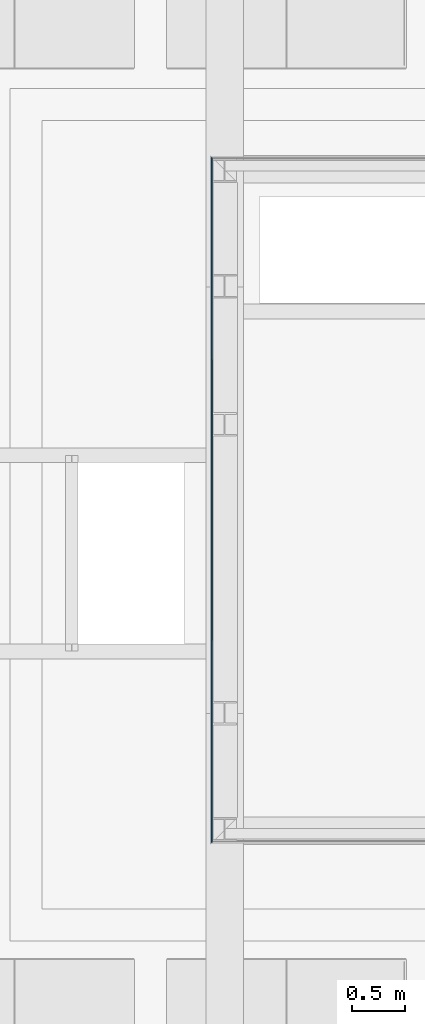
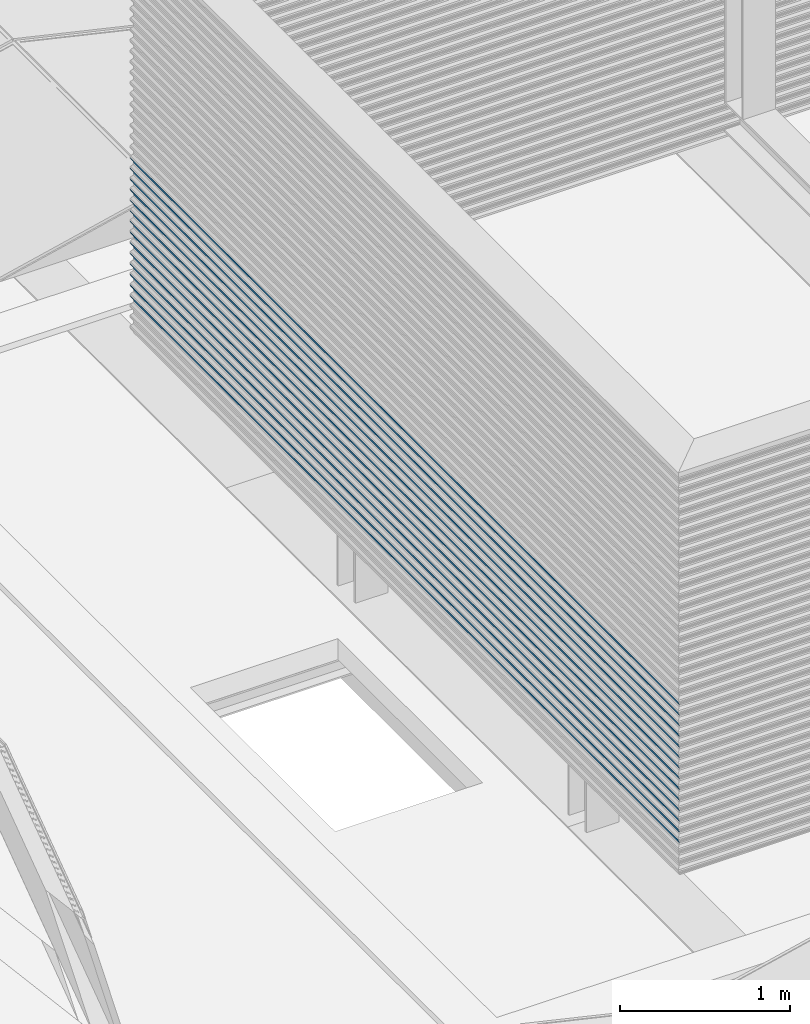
# One storey, part 23 of 63: 14 building element parts, 1 element without a shape of its own.
"""IFC2X3 building model written with IfcOpenShell, lengths in millimetres."""

from ifc_helpers import new_model, entity, si_unit, converted_unit, derived_unit, money_unit, direction, frame, origin_with_axes, place, context, subcontext, project, spatial, faceted_brep, material, type_object, element, aggregate, save


model = new_model("IFC2X3")

# Units and contexts
model_context = context("Model", 3, precision=0.01, world=origin_with_axes(), true_north=direction((0.0, 1.0)))
body_context = subcontext(model_context, "Body", "Model", "MODEL_VIEW")
ifc_project = project(units=[si_unit("LENGTHUNIT", "METRE", prefix="MILLI"), si_unit("AREAUNIT", "SQUARE_METRE"), si_unit("VOLUMEUNIT", "CUBIC_METRE"), converted_unit("PLANEANGLEUNIT", "DEGREE", entity("IfcPlaneAngleMeasure", 0.0174532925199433), si_unit("PLANEANGLEUNIT", "RADIAN"), dimensions=[0, 0, 0, 0, 0, 0, 0]), money_unit("EUR"), converted_unit("TIMEUNIT", "Year", entity("IfcTimeMeasure", 31557600.0), si_unit("TIMEUNIT", "SECOND"), dimensions=[0, 0, 1, 0, 0, 0, 0]), si_unit("MASSUNIT", "GRAM", prefix="KILO"), si_unit("THERMODYNAMICTEMPERATUREUNIT", "DEGREE_CELSIUS"), si_unit("LUMINOUSINTENSITYUNIT", "LUMEN"), si_unit("ENERGYUNIT", "JOULE", prefix="MEGA"), derived_unit("THERMALCONDUCTANCEUNIT", [(si_unit("POWERUNIT", "WATT"), 1), (si_unit("LENGTHUNIT", "METRE"), -1), (si_unit("THERMODYNAMICTEMPERATUREUNIT", "KELVIN"), -1)]), derived_unit("SPECIFICHEATCAPACITYUNIT", [(si_unit("ENERGYUNIT", "JOULE"), 1), (si_unit("MASSUNIT", "GRAM", prefix="KILO"), -1), (si_unit("THERMODYNAMICTEMPERATUREUNIT", "KELVIN"), -1)]), derived_unit("MASSDENSITYUNIT", [(si_unit("MASSUNIT", "GRAM", prefix="KILO"), 1), (si_unit("VOLUMEUNIT", "CUBIC_METRE"), -1)])], contexts=[model_context])

# Site, building, storey
site_placement = place(None, origin_with_axes())
site = spatial("IfcSite", under=ifc_project, at=site_placement, Name="<site naam>", CompositionType="ELEMENT")
building_placement = place(site_placement, origin_with_axes())
building = spatial("IfcBuilding", under=site, at=building_placement, Name="<Naam gebouw>", CompositionType="ELEMENT")
storey_placement = place(building_placement, frame((0.0, 0.0, 12770.0), z_axis=(0.0, 0.0, 1.0), x_axis=(1.0, 0.0, 0.0)))
storey = spatial("IfcBuildingStorey", under=building, at=storey_placement, Name="04 4e verdieping", CompositionType="ELEMENT", Elevation=12770.0)

# Wall, building element parts
wall_type = type_object("IfcWallType", Name="Gevelbeplating golf 18 x 2900", PredefinedType="NOTDEFINED")
wall_placement = place(storey_placement, frame((15871.99992141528, 13218.00009009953, 299.9552842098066), z_axis=(0.0, 0.0, 1.0), x_axis=(0.0, -1.0, 0.0)))
wall = element("IfcWall", 1, at=wall_placement, inside=storey, type_object=wall_type, Name="47_Binnenwand_Gevelbeplating")
ifc_material = material(Name="gevelafwerking type 3 - Aluminium RAL1036")
building_element_part_1_placement = place(wall_placement, origin_with_axes())
building_element_part_1 = element("IfcBuildingElementPart", 2, at=building_element_part_1_placement, material=ifc_material, Name="gevelafwerking type 3 - Aluminium RAL1036", context=body_context, shape_type="Brep", body=[
    faceted_brep([(17.99999285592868, 16.99999047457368, 227.9999999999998), (17.99999285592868, 17.99999285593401, 227.9999999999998), (6418.000175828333, 17.99999285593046, 227.9999999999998), (6418.000175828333, 16.99999047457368, 227.9999999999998), (15.62925573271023, 15.62925573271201, 238.6844886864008), (15.69999469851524, 14.77518995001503, 238.3656808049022), (15.62925573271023, 14.54422243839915, 238.6844886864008), (6420.370912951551, 15.62925573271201, 238.6844886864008), (6420.370912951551, 14.54422243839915, 238.6844886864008), (6420.300173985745, 14.77518995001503, 238.3656808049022), (6426.602046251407, 8.555245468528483, 246.9511047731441), (9.398122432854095, 8.555245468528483, 246.9511047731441), (9.041576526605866, 9.041576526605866, 247.4241211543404), (9.041576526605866, 8.209534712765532, 247.4241211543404), (6426.958592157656, 9.041576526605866, 247.4241211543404), (6426.958592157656, 8.209534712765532, 247.4241211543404), (6432.660044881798, 2.257351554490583, 255.5682041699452), (3.340123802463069, 2.257351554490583, 255.5682041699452), (3.116471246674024, 3.116471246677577, 255.8876744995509), (3.116471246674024, 2.188223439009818, 255.8876744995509), (6432.883697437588, 3.116471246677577, 255.8876744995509), (6432.883697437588, 2.188223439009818, 255.8876744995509), (6435.000175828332, -7.144066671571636e-06, 266.0), (0.9999928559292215, -7.144066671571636e-06, 266.0), (0.9999928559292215, 0.9999928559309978, 266.0), (6435.000175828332, 0.9999928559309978, 266.0)], [[[0, 1, 2, 3]], [[4, 1, 0, 5, 6]], [[1, 4, 7, 2]], [[3, 2, 7, 8, 9]], [[5, 0, 3, 9]], [[6, 5, 9, 8, 10, 11]], [[12, 4, 6, 11, 13]], [[4, 12, 14, 7]], [[7, 14, 15, 10, 8]], [[13, 11, 10, 15, 16, 17]], [[18, 12, 13, 17, 19]], [[12, 18, 20, 14]], [[14, 20, 21, 16, 15]], [[19, 17, 16, 21, 22, 23]], [[24, 18, 19, 23]], [[18, 24, 25, 20]], [[20, 25, 22, 21]], [[24, 23, 22, 25]]]),
])
building_element_part_2_placement = place(wall_placement, origin_with_axes())
building_element_part_2 = element("IfcBuildingElementPart", 3, at=building_element_part_2_placement, material=ifc_material, Name="gevelafwerking type 3 - Aluminium RAL1036", context=body_context, shape_type="Brep", body=[
    faceted_brep([(17.99999047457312, 16.99998809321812, 380.0000000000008), (17.99999047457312, 17.99999047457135, 380.0000000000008), (6418.000178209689, 17.99999047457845, 380.0000000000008), (6418.000178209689, 16.99998809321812, 380.0000000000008), (15.62925335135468, 15.62925335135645, 390.6844886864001), (15.69999000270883, 14.77518756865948, 390.3656912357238), (15.62925335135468, 14.54422761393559, 390.6844886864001), (6420.370915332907, 15.62925335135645, 390.6844886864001), (6420.370915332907, 14.54422761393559, 390.6844886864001), (6420.300178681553, 14.77518756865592, 390.3656912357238), (6426.602056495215, 8.555243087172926, 398.9511152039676), (9.398112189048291, 8.555243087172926, 398.9511152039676), (9.041574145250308, 9.041574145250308, 399.4241211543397), (9.041574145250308, 8.209539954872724, 399.4241211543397), (6426.958594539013, 9.041574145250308, 399.4241211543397), (6426.958594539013, 8.209539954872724, 399.4241211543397), (6432.660054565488, 2.257349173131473, 407.5682146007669), (3.340114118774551, 2.257349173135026, 407.5682146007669), (3.116468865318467, 3.11646886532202, 407.8876744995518), (3.116468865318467, 2.188223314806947, 407.8876744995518), (6432.883699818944, 3.11646886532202, 407.8876744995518), (6432.883699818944, 2.188223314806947, 407.8876744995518), (6435.00017820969, -9.52542578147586e-06, 417.9999999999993), (0.9999904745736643, -9.525422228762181e-06, 417.9999999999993), (0.9999904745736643, 0.9999904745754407, 417.9999999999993), (6435.00017820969, 0.9999904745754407, 417.9999999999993)], [[[0, 1, 2, 3]], [[4, 1, 0, 5, 6]], [[1, 4, 7, 2]], [[3, 2, 7, 8, 9]], [[5, 0, 3, 9]], [[6, 5, 9, 8, 10, 11]], [[12, 4, 6, 11, 13]], [[4, 12, 14, 7]], [[7, 14, 15, 10, 8]], [[13, 11, 10, 15, 16, 17]], [[18, 12, 13, 17, 19]], [[12, 18, 20, 14]], [[14, 20, 21, 16, 15]], [[19, 17, 16, 21, 22, 23]], [[24, 18, 19, 23]], [[18, 24, 25, 20]], [[20, 25, 22, 21]], [[24, 23, 22, 25]]]),
])
building_element_part_3_placement = place(wall_placement, origin_with_axes())
building_element_part_3 = element("IfcBuildingElementPart", 4, at=building_element_part_3_placement, material=ifc_material, Name="gevelafwerking type 3 - Aluminium RAL1036", context=body_context, shape_type="Brep", body=[
    faceted_brep([(17.99999047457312, 16.99998809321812, 304.0000000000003), (17.99999047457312, 17.99999047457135, 304.0000000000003), (6418.000178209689, 17.99999047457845, 304.0000000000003), (6418.000178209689, 16.99998809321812, 304.0000000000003), (15.62925335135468, 15.62925335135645, 314.6844886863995), (15.69999595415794, 14.77518756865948, 314.365664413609), (15.62925335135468, 14.54420818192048, 314.6844886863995), (6420.370915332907, 15.62925335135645, 314.6844886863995), (6420.300172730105, 14.77518756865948, 314.365664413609), (6420.370915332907, 14.54420818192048, 314.6844886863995), (6426.602036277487, 8.555243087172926, 322.9510883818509), (9.398132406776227, 8.555243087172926, 322.9510883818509), (9.041574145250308, 9.041574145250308, 323.4241211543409), (9.041574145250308, 8.209551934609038, 323.4241211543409), (6426.958594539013, 9.041574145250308, 323.4241211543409), (6426.958594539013, 8.209551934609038, 323.4241211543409), (6432.660066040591, 2.257349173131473, 331.56823099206), (3.34010264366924, 2.257349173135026, 331.56823099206), (3.116468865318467, 3.11646886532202, 331.8876744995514), (3.116468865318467, 2.188217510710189, 331.8876744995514), (6432.883699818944, 3.11646886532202, 331.8876744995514), (6432.883699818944, 2.188217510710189, 331.8876744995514), (6435.00017820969, -9.52542578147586e-06, 342.0000000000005), (0.9999904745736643, -9.525422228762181e-06, 342.0000000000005), (0.9999904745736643, 0.9999904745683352, 342.0000000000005), (6435.00017820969, 0.9999904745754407, 342.0000000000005)], [[[0, 1, 2, 3]], [[4, 1, 0, 5, 6]], [[1, 4, 7, 2]], [[8, 3, 2, 7, 9]], [[5, 0, 3, 8]], [[6, 5, 8, 9, 10, 11]], [[12, 4, 6, 11, 13]], [[4, 12, 14, 7]], [[9, 7, 14, 15, 10]], [[13, 11, 10, 15, 16, 17]], [[18, 12, 13, 17, 19]], [[12, 18, 20, 14]], [[15, 14, 20, 21, 16]], [[19, 17, 16, 21, 22, 23]], [[24, 18, 19, 23]], [[18, 24, 25, 20]], [[21, 20, 25, 22]], [[24, 23, 22, 25]]]),
])
building_element_part_4_placement = place(wall_placement, origin_with_axes())
building_element_part_4 = element("IfcBuildingElementPart", 5, at=building_element_part_4_placement, material=ifc_material, Name="gevelafwerking type 3 - Aluminium RAL1036", context=body_context, shape_type="Brep", body=[
    faceted_brep([(17.99998571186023, 16.99998333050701, 532.0), (17.99998571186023, 17.99998571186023, 532.0), (6418.000182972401, 17.99998571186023, 532.0), (6418.000182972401, 16.99998333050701, 532.0), (15.62924858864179, 15.62924858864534, 542.6844886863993), (15.69998292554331, 14.77518280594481, 542.3657016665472), (15.62924858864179, 14.54423040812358, 542.6844886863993), (6420.370920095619, 15.62924858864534, 542.6844886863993), (6420.370920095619, 14.54423040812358, 542.6844886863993), (6420.300185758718, 14.77518280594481, 542.3657016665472), (6426.602069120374, 8.555238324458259, 550.9511256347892), (9.39809956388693, 8.555238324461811, 550.9511256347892), (9.041569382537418, 9.041569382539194, 551.4241211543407), (9.041569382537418, 8.209542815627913, 551.4241211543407), (6426.958599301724, 9.041569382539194, 551.4241211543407), (6426.958599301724, 8.209542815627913, 551.4241211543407), (6432.660066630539, 2.257344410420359, 559.5682250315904), (3.340102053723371, 2.257344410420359, 559.5682250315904), (3.116464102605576, 3.116464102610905, 559.8876744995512), (3.116464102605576, 2.188211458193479, 559.8876744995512), (6432.883704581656, 3.116464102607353, 559.8876744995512), (6432.883704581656, 2.188211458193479, 559.8876744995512), (6435.000182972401, -1.428813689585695e-05, 570.0000000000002), (0.9999857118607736, -1.428813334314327e-05, 570.0000000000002), (0.9999857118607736, 0.9999857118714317, 570.0000000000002), (6435.000182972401, 0.9999857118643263, 570.0000000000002)], [[[0, 1, 2, 3]], [[4, 1, 0, 5, 6]], [[1, 4, 7, 2]], [[3, 2, 7, 8, 9]], [[5, 0, 3, 9]], [[6, 5, 9, 8, 10, 11]], [[12, 4, 6, 11, 13]], [[4, 12, 14, 7]], [[7, 14, 15, 10, 8]], [[13, 11, 10, 15, 16, 17]], [[18, 12, 13, 17, 19]], [[12, 18, 20, 14]], [[14, 20, 21, 16, 15]], [[19, 17, 16, 21, 22, 23]], [[24, 18, 19, 23]], [[18, 24, 25, 20]], [[20, 25, 22, 21]], [[24, 23, 22, 25]]]),
])
building_element_part_5_placement = place(wall_placement, origin_with_axes())
building_element_part_5 = element("IfcBuildingElementPart", 6, at=building_element_part_5_placement, material=ifc_material, Name="gevelafwerking type 3 - Aluminium RAL1036", context=body_context, shape_type="Brep", body=[
    faceted_brep([(17.99998809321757, 16.99998571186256, 455.9999999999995), (17.99998809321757, 17.99998809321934, 455.9999999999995), (6418.000180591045, 17.99998809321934, 455.9999999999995), (6418.000180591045, 16.99998571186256, 455.9999999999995), (15.62925096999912, 15.6292509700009, 466.6844886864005), (15.69999125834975, 14.77518518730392, 466.3656748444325), (15.62925096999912, 14.54421335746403, 466.6844886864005), (6420.370917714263, 15.6292509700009, 466.6844886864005), (6420.370917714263, 14.54421335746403, 466.6844886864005), (6420.300177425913, 14.77518518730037, 466.3656748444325), (6426.602046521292, 8.555240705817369, 474.9510988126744), (9.398122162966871, 8.555240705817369, 474.9510988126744), (9.041571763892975, 9.041571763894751, 475.4241211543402), (9.041571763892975, 8.209525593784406, 475.4241211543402), (6426.958596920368, 9.041571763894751, 475.4241211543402), (6426.958596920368, 8.209525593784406, 475.4241211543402), (6432.660045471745, 2.257346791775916, 483.5681982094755), (3.340123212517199, 2.257346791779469, 483.5681982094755), (3.11646648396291, 3.116466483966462, 483.8876744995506), (3.11646648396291, 2.188217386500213, 483.8876744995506), (6432.8837022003, 3.116466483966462, 483.8876744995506), (6432.8837022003, 2.188217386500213, 483.8876744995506), (6435.000180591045, -1.190678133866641e-05, 493.9999999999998), (0.9999880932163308, -1.190678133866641e-05, 493.9999999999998), (0.9999880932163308, 0.9999880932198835, 493.9999999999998), (6435.000180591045, 0.9999880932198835, 493.9999999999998)], [[[0, 1, 2, 3]], [[4, 1, 0, 5, 6]], [[1, 4, 7, 2]], [[3, 2, 7, 8, 9]], [[5, 0, 3, 9]], [[6, 5, 9, 8, 10, 11]], [[12, 4, 6, 11, 13]], [[4, 12, 14, 7]], [[7, 14, 15, 10, 8]], [[13, 11, 10, 15, 16, 17]], [[18, 12, 13, 17, 19]], [[12, 18, 20, 14]], [[14, 20, 21, 16, 15]], [[19, 17, 16, 21, 22, 23]], [[24, 18, 19, 23]], [[18, 24, 25, 20]], [[20, 25, 22, 21]], [[24, 23, 22, 25]]]),
])
building_element_part_6_placement = place(wall_placement, origin_with_axes())
building_element_part_6 = element("IfcBuildingElementPart", 7, at=building_element_part_6_placement, material=ifc_material, Name="gevelafwerking type 3 - Aluminium RAL1036", context=body_context, shape_type="Brep", body=[
    faceted_brep([(17.99998333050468, 16.99998094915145, 608.0000000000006), (17.99998333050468, 17.99998333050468, 608.0000000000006), (6418.000185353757, 17.99998333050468, 608.0000000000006), (6418.000185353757, 16.99998094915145, 608.0000000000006), (15.62924620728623, 15.62924620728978, 618.6844886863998), (15.69998418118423, 14.77518042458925, 618.3656852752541), (15.62924620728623, 14.54421615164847, 618.6844886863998), (6420.370922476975, 15.62924620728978, 618.6844886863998), (6420.300184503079, 14.77518042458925, 618.3656852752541), (6420.370922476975, 14.54421615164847, 618.6844886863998), (6426.602059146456, 8.555235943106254, 626.9511092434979), (9.398109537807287, 8.555235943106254, 626.9511092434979), (9.04156700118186, 9.041567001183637, 627.4241211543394), (9.04156700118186, 8.209528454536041, 627.4241211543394), (6426.958601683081, 9.041567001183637, 627.4241211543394), (6426.958601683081, 8.209528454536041, 627.4241211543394), (6432.660057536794, 2.257342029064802, 635.5682086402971), (3.340111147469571, 2.257342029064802, 635.5682086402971), (3.116461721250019, 3.116461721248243, 635.8876744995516), (3.116461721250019, 2.188214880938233, 635.8876744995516), (6432.883706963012, 3.116461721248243, 635.8876744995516), (6432.883706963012, 2.188214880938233, 635.8876744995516), (6435.000185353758, -1.666949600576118e-05, 645.999999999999), (0.9999833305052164, -1.66694924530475e-05, 645.999999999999), (0.9999833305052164, 0.9999833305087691, 645.999999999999), (6435.000185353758, 0.9999833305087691, 645.999999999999)], [[[0, 1, 2, 3]], [[4, 1, 0, 5, 6]], [[1, 4, 7, 2]], [[8, 3, 2, 7, 9]], [[5, 0, 3, 8]], [[6, 5, 8, 9, 10, 11]], [[12, 4, 6, 11, 13]], [[4, 12, 14, 7]], [[9, 7, 14, 15, 10]], [[13, 11, 10, 15, 16, 17]], [[18, 12, 13, 17, 19]], [[12, 18, 20, 14]], [[15, 14, 20, 21, 16]], [[19, 17, 16, 21, 22, 23]], [[24, 18, 19, 23]], [[18, 24, 25, 20]], [[21, 20, 25, 22]], [[24, 23, 22, 25]]]),
])
building_element_part_7_placement = place(wall_placement, origin_with_axes())
building_element_part_7 = element("IfcBuildingElementPart", 8, at=building_element_part_7_placement, material=ifc_material, Name="gevelafwerking type 3 - Aluminium RAL1036", context=body_context, shape_type="Brep", body=[
    faceted_brep([(17.99998094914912, 16.99997856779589, 683.9999999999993), (17.99998094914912, 17.99998094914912, 683.9999999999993), (6418.000187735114, 17.99998094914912, 683.9999999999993), (6418.000187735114, 16.99997856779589, 683.9999999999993), (15.62924382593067, 15.62924382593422, 694.6844886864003), (15.69998543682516, 14.77517804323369, 694.365668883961), (15.62924382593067, 14.54420189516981, 694.6844886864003), (6420.370924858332, 15.62924382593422, 694.6844886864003), (6420.300183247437, 14.77517804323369, 694.365668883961), (6420.370924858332, 14.54420189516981, 694.6844886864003), (6426.602049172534, 8.555233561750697, 702.9510928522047), (9.398119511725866, 8.555233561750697, 702.9510928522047), (9.041564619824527, 9.04156461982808, 703.4241211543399), (9.041564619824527, 8.209514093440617, 703.4241211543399), (6426.958604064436, 9.04156461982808, 703.4241211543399), (6426.958604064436, 8.209514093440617, 703.4241211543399), (6432.660048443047, 2.257339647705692, 711.568192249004), (3.340120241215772, 2.257339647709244, 711.568192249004), (3.116459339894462, 3.116459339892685, 711.8876744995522), (3.116459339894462, 2.188208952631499, 711.8876744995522), (6432.883709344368, 3.116459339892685, 711.8876744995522), (6432.883709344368, 2.188208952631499, 711.8876744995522), (6435.000187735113, -1.905085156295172e-05, 721.9999999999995), (0.9999809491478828, -1.905084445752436e-05, 721.9999999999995), (0.9999809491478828, 0.9999809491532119, 721.9999999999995), (6435.000187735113, 0.9999809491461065, 721.9999999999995)], [[[0, 1, 2, 3]], [[4, 1, 0, 5, 6]], [[1, 4, 7, 2]], [[8, 3, 2, 7, 9]], [[5, 0, 3, 8]], [[6, 5, 8, 9, 10, 11]], [[12, 4, 6, 11, 13]], [[4, 12, 14, 7]], [[9, 7, 14, 15, 10]], [[13, 11, 10, 15, 16, 17]], [[18, 12, 13, 17, 19]], [[12, 18, 20, 14]], [[15, 14, 20, 21, 16]], [[19, 17, 16, 21, 22, 23]], [[24, 18, 19, 23]], [[18, 24, 25, 20]], [[21, 20, 25, 22]], [[24, 23, 22, 25]]]),
])
building_element_part_8_placement = place(wall_placement, origin_with_axes())
building_element_part_8 = element("IfcBuildingElementPart", 9, at=building_element_part_8_placement, material=ifc_material, Name="gevelafwerking type 3 - Aluminium RAL1036", context=body_context, shape_type="Brep", body=[
    faceted_brep([(17.99997856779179, 16.99997618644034, 759.9999999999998), (17.99997856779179, 17.99997856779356, 759.9999999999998), (6418.00019011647, 17.99997856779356, 759.9999999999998), (6418.00019011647, 16.99997618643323, 759.9999999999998), (15.62924144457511, 15.62924144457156, 770.6844886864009), (15.69997710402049, 14.77517566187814, 770.3656957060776), (15.62924144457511, 14.54421894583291, 770.6844886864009), (6420.370927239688, 15.62924144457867, 770.6844886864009), (6420.370927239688, 14.54421894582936, 770.6844886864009), (6420.300191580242, 14.77517566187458, 770.3656957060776), (6426.602071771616, 8.555231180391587, 778.9511196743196), (9.398096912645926, 8.555231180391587, 778.9511196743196), (9.04156223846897, 9.041562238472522, 779.4241211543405), (9.04156223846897, 8.209531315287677, 779.4241211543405), (6426.958606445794, 9.041562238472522, 779.4241211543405), (6426.958606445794, 8.209531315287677, 779.4241211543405), (6432.660069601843, 2.257337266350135, 787.5682190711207), (3.340099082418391, 2.257337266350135, 787.5682190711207), (3.116456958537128, 3.116456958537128, 787.8876744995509), (3.116456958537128, 2.188203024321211, 787.8876744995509), (6432.883711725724, 3.116456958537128, 787.8876744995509), (6432.883711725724, 2.188203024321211, 787.8876744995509), (6435.00019011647, -2.143220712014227e-05, 798.0), (0.9999785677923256, -2.143220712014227e-05, 798.0), (0.9999785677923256, 0.9999785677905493, 798.0), (6435.00019011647, 0.9999785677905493, 798.0)], [[[0, 1, 2, 3]], [[4, 1, 0, 5, 6]], [[1, 4, 7, 2]], [[3, 2, 7, 8, 9]], [[5, 0, 3, 9]], [[6, 5, 9, 8, 10, 11]], [[12, 4, 6, 11, 13]], [[4, 12, 14, 7]], [[7, 14, 15, 10, 8]], [[13, 11, 10, 15, 16, 17]], [[18, 12, 13, 17, 19]], [[12, 18, 20, 14]], [[14, 20, 21, 16, 15]], [[19, 17, 16, 21, 22, 23]], [[24, 18, 19, 23]], [[18, 24, 25, 20]], [[20, 25, 22, 21]], [[24, 23, 22, 25]]]),
])
building_element_part_9_placement = place(wall_placement, origin_with_axes())
building_element_part_9 = element("IfcBuildingElementPart", 10, at=building_element_part_9_placement, material=ifc_material, Name="gevelafwerking type 3 - Aluminium RAL1036", context=body_context, shape_type="Brep", body=[
    faceted_brep([(17.99997618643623, 16.99997380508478, 836.0000000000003), (17.99997618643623, 17.999976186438, 836.0000000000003), (6418.000192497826, 17.999976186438, 836.0000000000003), (6418.000192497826, 16.99997380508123, 836.0000000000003), (15.62923906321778, 15.62923906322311, 846.6844886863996), (15.69997835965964, 14.77517328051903, 846.3656793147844), (15.62923906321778, 14.54420468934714, 846.6844886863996), (6420.370929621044, 15.62923906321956, 846.6844886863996), (6420.300190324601, 14.77517328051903, 846.3656793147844), (6420.370929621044, 14.54420468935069, 846.6844886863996), (6426.602061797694, 8.55522879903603, 854.9511032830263), (9.398106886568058, 8.55522879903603, 854.9511032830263), (9.041559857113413, 9.041559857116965, 855.4241211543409), (9.041559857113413, 8.209516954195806, 855.4241211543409), (6426.958608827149, 9.041559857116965, 855.4241211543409), (6426.958608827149, 8.209516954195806, 855.4241211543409), (6432.660060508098, 2.257334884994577, 863.5682026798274), (3.340108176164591, 2.257334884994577, 863.5682026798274), (3.116454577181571, 3.116454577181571, 863.8876744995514), (3.116454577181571, 2.188206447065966, 863.8876744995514), (6432.883714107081, 3.116454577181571, 863.8876744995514), (6432.883714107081, 2.188206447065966, 863.8876744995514), (6435.000192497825, -2.381356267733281e-05, 874.0000000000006), (0.9999761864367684, -2.381356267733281e-05, 874.0000000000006), (0.9999761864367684, 0.9999761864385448, 874.0000000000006), (6435.000192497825, 0.9999761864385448, 874.0000000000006)], [[[0, 1, 2, 3]], [[4, 1, 0, 5, 6]], [[1, 4, 7, 2]], [[8, 3, 2, 7, 9]], [[5, 0, 3, 8]], [[6, 5, 8, 9, 10, 11]], [[12, 4, 6, 11, 13]], [[4, 12, 14, 7]], [[9, 7, 14, 15, 10]], [[13, 11, 10, 15, 16, 17]], [[18, 12, 13, 17, 19]], [[12, 18, 20, 14]], [[15, 14, 20, 21, 16]], [[19, 17, 16, 21, 22, 23]], [[24, 18, 19, 23]], [[18, 24, 25, 20]], [[21, 20, 25, 22]], [[24, 23, 22, 25]]]),
])
building_element_part_10_placement = place(wall_placement, origin_with_axes())
building_element_part_10 = element("IfcBuildingElementPart", 11, at=building_element_part_10_placement, material=ifc_material, Name="gevelafwerking type 3 - Aluminium RAL1036", context=body_context, shape_type="Brep", body=[
    faceted_brep([(17.99997380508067, 16.99997142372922, 911.9999999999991), (17.99997380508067, 17.99997380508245, 911.9999999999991), (6418.000194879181, 17.99997380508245, 911.9999999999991), (6418.000194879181, 16.99997142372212, 911.9999999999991), (15.62923668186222, 15.629236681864, 922.6844886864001), (15.69997002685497, 14.77517089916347, 922.3657061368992), (15.62923668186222, 14.54419043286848, 922.6844886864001), (6420.3709320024, 15.62923668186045, 922.6844886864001), (6420.3709320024, 14.54419043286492, 922.6844886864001), (6420.300198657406, 14.77517089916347, 922.3657061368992), (6426.602051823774, 8.55522641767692, 930.9510868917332), (9.398116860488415, 8.55522641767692, 930.9510868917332), (9.041557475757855, 9.041557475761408, 931.4241211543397), (9.041557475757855, 8.20953417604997, 931.4241211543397), (6426.958611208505, 9.041557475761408, 931.4241211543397), (6426.958611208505, 8.20953417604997, 931.4241211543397), (6432.660081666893, 2.25733250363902, 939.5682295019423), (3.340087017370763, 2.25733250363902, 939.5682295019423), (3.116452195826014, 3.116452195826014, 939.8876744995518), (3.116452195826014, 2.188200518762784, 939.8876744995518), (6432.883716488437, 3.116452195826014, 939.8876744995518), (6432.883716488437, 2.188200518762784, 939.8876744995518), (6435.000194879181, -2.619491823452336e-05, 949.9999999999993), (0.9999738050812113, -2.619491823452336e-05, 949.9999999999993), (0.9999738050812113, 0.9999738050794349, 949.9999999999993), (6435.000194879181, 0.9999738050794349, 949.9999999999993)], [[[0, 1, 2, 3]], [[4, 1, 0, 5, 6]], [[1, 4, 7, 2]], [[3, 2, 7, 8, 9]], [[5, 0, 3, 9]], [[6, 5, 9, 8, 10, 11]], [[12, 4, 6, 11, 13]], [[4, 12, 14, 7]], [[7, 14, 15, 10, 8]], [[13, 11, 10, 15, 16, 17]], [[18, 12, 13, 17, 19]], [[12, 18, 20, 14]], [[14, 20, 21, 16, 15]], [[19, 17, 16, 21, 22, 23]], [[24, 18, 19, 23]], [[18, 24, 25, 20]], [[20, 25, 22, 21]], [[24, 23, 22, 25]]]),
])
building_element_part_11_placement = place(wall_placement, origin_with_axes())
building_element_part_11 = element("IfcBuildingElementPart", 12, at=building_element_part_11_placement, material=ifc_material, Name="gevelafwerking type 3 - Aluminium RAL1036", context=body_context, shape_type="Brep", body=[
    faceted_brep([(17.99996904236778, 16.99996666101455, 1064.0), (17.99996904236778, 17.99996904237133, 1064.0), (6418.000199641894, 17.99996904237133, 1064.0), (6418.000199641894, 16.99996666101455, 1064.0), (15.62923191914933, 15.62923191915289, 1074.684488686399), (15.69997253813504, 14.77516613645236, 1074.365673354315), (15.62923191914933, 14.54419322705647, 1074.684488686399), (6420.370936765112, 15.62923191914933, 1074.684488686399), (6420.300196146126, 14.77516613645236, 1074.365673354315), (6420.370936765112, 14.54419322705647, 1074.684488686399), (6426.602064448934, 8.555221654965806, 1082.951097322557), (9.398104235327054, 8.555221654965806, 1082.951097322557), (9.041552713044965, 9.041552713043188, 1083.424121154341), (9.041552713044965, 8.209505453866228, 1083.424121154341), (6426.958615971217, 9.041552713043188, 1083.424121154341), (6426.958615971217, 8.209505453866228, 1083.424121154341), (6432.660063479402, 2.257327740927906, 1091.568196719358), (3.340105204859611, 2.257327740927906, 1091.568196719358), (3.116447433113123, 3.116447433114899, 1091.887674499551), (3.116447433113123, 2.188198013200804, 1091.887674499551), (6432.883721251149, 3.116447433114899, 1091.887674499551), (6432.883721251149, 2.188198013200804, 1091.887674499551), (6435.000199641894, -3.095762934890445e-05, 1102.0), (0.9999690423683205, -3.095762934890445e-05, 1102.0), (0.9999690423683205, 0.9999690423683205, 1102.0), (6435.000199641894, 0.9999690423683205, 1102.0)], [[[0, 1, 2, 3]], [[4, 1, 0, 5, 6]], [[1, 4, 7, 2]], [[8, 3, 2, 7, 9]], [[5, 0, 3, 8]], [[6, 5, 8, 9, 10, 11]], [[12, 4, 6, 11, 13]], [[4, 12, 14, 7]], [[9, 7, 14, 15, 10]], [[13, 11, 10, 15, 16, 17]], [[18, 12, 13, 17, 19]], [[12, 18, 20, 14]], [[15, 14, 20, 21, 16]], [[19, 17, 16, 21, 22, 23]], [[24, 18, 19, 23]], [[18, 24, 25, 20]], [[21, 20, 25, 22]], [[24, 23, 22, 25]]]),
])
building_element_part_12_placement = place(wall_placement, origin_with_axes())
building_element_part_12 = element("IfcBuildingElementPart", 13, at=building_element_part_12_placement, material=ifc_material, Name="gevelafwerking type 3 - Aluminium RAL1036", context=body_context, shape_type="Brep", body=[
    faceted_brep([(17.99996904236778, 16.999966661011, 1139.999999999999), (17.99996904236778, 17.99996904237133, 1139.999999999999), (6418.000199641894, 17.99996904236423, 1139.999999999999), (6418.000199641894, 16.999966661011, 1139.999999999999), (15.62923191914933, 15.62923191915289, 1150.6844886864), (15.69996658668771, 14.77516613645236, 1150.36570017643), (15.62923191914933, 14.54421265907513, 1150.6844886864), (6420.370936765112, 15.62923191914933, 1150.6844886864), (6420.370936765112, 14.54421265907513, 1150.6844886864), (6420.300202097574, 14.77516613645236, 1150.36570017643), (6426.602084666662, 8.555221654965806, 1158.951124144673), (9.398084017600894, 8.555221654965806, 1158.951124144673), (9.041552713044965, 9.041552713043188, 1159.424121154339), (9.041552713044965, 8.209525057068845, 1159.424121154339), (6426.958615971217, 9.041552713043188, 1159.424121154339), (6426.958615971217, 8.209525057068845, 1159.424121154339), (6432.66008225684, 2.257327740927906, 1167.568223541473), (3.34008642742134, 2.257327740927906, 1167.568223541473), (3.116447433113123, 3.116447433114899, 1167.887674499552), (3.116447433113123, 2.188194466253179, 1167.887674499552), (6432.883721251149, 3.116447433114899, 1167.887674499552), (6432.883721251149, 2.188194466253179, 1167.887674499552), (6435.000199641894, -3.095762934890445e-05, 1177.999999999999), (0.9999690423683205, -3.095762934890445e-05, 1177.999999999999), (0.9999690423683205, 0.9999690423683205, 1177.999999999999), (6435.000199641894, 0.9999690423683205, 1177.999999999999)], [[[0, 1, 2, 3]], [[4, 1, 0, 5, 6]], [[1, 4, 7, 2]], [[3, 2, 7, 8, 9]], [[5, 0, 3, 9]], [[6, 5, 9, 8, 10, 11]], [[12, 4, 6, 11, 13]], [[4, 12, 14, 7]], [[7, 14, 15, 10, 8]], [[13, 11, 10, 15, 16, 17]], [[18, 12, 13, 17, 19]], [[12, 18, 20, 14]], [[14, 20, 21, 16, 15]], [[19, 17, 16, 21, 22, 23]], [[24, 18, 19, 23]], [[18, 24, 25, 20]], [[20, 25, 22, 21]], [[24, 23, 22, 25]]]),
])
building_element_part_13_placement = place(wall_placement, origin_with_axes())
building_element_part_13 = element("IfcBuildingElementPart", 14, at=building_element_part_13_placement, material=ifc_material, Name="gevelafwerking type 3 - Aluminium RAL1036", context=body_context, shape_type="Brep", body=[
    faceted_brep([(17.99996666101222, 16.999964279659, 1215.999999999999), (17.99996666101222, 17.99996666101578, 1215.999999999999), (6418.00020202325, 17.99996666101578, 1215.999999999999), (6418.00020202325, 16.99996427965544, 1215.999999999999), (15.62922953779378, 15.62922953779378, 1226.6844886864), (15.69996784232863, 14.7751637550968, 1226.365683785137), (15.62922953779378, 14.54419840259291, 1226.6844886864), (6420.370939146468, 15.62922953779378, 1226.6844886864), (6420.300200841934, 14.7751637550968, 1226.365683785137), (6420.370939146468, 14.54419840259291, 1226.6844886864), (6426.60207469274, 8.555219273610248, 1234.95110775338), (9.398093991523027, 8.555219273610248, 1234.95110775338), (9.041550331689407, 9.041550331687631, 1235.42412115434), (9.041550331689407, 8.209510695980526, 1235.42412115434), (6426.958618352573, 9.041550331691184, 1235.42412115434), (6426.958618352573, 8.209510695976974, 1235.42412115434), (6432.660073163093, 2.257325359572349, 1243.568207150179), (3.340095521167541, 2.257325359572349, 1243.568207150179), (3.116445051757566, 3.116445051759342, 1243.887674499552), (3.116445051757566, 2.188197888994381, 1243.887674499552), (6432.883723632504, 3.116445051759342, 1243.887674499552), (6432.883723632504, 2.188197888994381, 1243.887674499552), (6435.00020202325, -3.333898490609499e-05, 1254.0), (0.9999666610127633, -3.333898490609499e-05, 1254.0), (0.9999666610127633, 0.9999666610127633, 1254.0), (6435.00020202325, 0.9999666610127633, 1254.0)], [[[0, 1, 2, 3]], [[4, 1, 0, 5, 6]], [[1, 4, 7, 2]], [[8, 3, 2, 7, 9]], [[5, 0, 3, 8]], [[6, 5, 8, 9, 10, 11]], [[12, 4, 6, 11, 13]], [[4, 12, 14, 7]], [[9, 7, 14, 15, 10]], [[13, 11, 10, 15, 16, 17]], [[18, 12, 13, 17, 19]], [[12, 18, 20, 14]], [[15, 14, 20, 21, 16]], [[19, 17, 16, 21, 22, 23]], [[24, 18, 19, 23]], [[18, 24, 25, 20]], [[21, 20, 25, 22]], [[24, 23, 22, 25]]]),
])
building_element_part_14_placement = place(wall_placement, origin_with_axes())
building_element_part_14 = element("IfcBuildingElementPart", 15, at=building_element_part_14_placement, material=ifc_material, Name="gevelafwerking type 3 - Aluminium RAL1036", context=body_context, shape_type="Brep", body=[
    faceted_brep([(17.99997142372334, 16.99996904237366, 987.9999999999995), (17.99997142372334, 17.99997142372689, 987.9999999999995), (6418.000197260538, 17.99997142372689, 987.9999999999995), (6418.000197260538, 16.99996904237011, 987.9999999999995), (15.62923430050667, 15.62923430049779, 998.6844886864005), (15.69997128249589, 14.77516851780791, 998.3656897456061), (15.62923430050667, 14.54420748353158, 998.6844886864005), (6420.370934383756, 15.62923430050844, 998.6844886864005), (6420.300197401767, 14.77516851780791, 998.3656897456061), (6420.370934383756, 14.54420748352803, 998.6844886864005), (6426.602074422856, 8.555224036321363, 1006.95111371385), (9.398094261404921, 8.555224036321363, 1006.95111371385), (9.041555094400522, 9.041555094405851, 1007.42412115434), (9.041555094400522, 8.209519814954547, 1007.42412115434), (6426.958613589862, 9.041555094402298, 1007.42412115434), (6426.958613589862, 8.209519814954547, 1007.42412115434), (6432.660072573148, 2.257330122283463, 1015.568213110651), (3.340096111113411, 2.257330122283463, 1015.568213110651), (3.11644981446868, 3.116449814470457, 1015.887674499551), (3.11644981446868, 2.188203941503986, 1015.887674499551), (6432.883718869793, 3.116449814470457, 1015.887674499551), (6432.883718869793, 2.188203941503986, 1015.887674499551), (6435.000197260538, -2.85762737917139e-05, 1026.0), (0.9999714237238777, -2.85762737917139e-05, 1026.0), (0.9999714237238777, 0.9999714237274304, 1026.0), (6435.000197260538, 0.9999714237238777, 1026.0)], [[[0, 1, 2, 3]], [[4, 1, 0, 5, 6]], [[1, 4, 7, 2]], [[8, 3, 2, 7, 9]], [[5, 0, 3, 8]], [[6, 5, 8, 9, 10, 11]], [[12, 4, 6, 11, 13]], [[4, 12, 14, 7]], [[9, 7, 14, 15, 10]], [[13, 11, 10, 15, 16, 17]], [[18, 12, 13, 17, 19]], [[12, 18, 20, 14]], [[15, 14, 20, 21, 16]], [[19, 17, 16, 21, 22, 23]], [[24, 18, 19, 23]], [[18, 24, 25, 20]], [[21, 20, 25, 22]], [[24, 23, 22, 25]]]),
])
aggregate(wall, [building_element_part_1, building_element_part_2, building_element_part_3, building_element_part_4, building_element_part_5, building_element_part_6, building_element_part_7, building_element_part_8, building_element_part_9, building_element_part_10, building_element_part_11, building_element_part_12, building_element_part_13, building_element_part_14])

save(model, "model.ifc")
